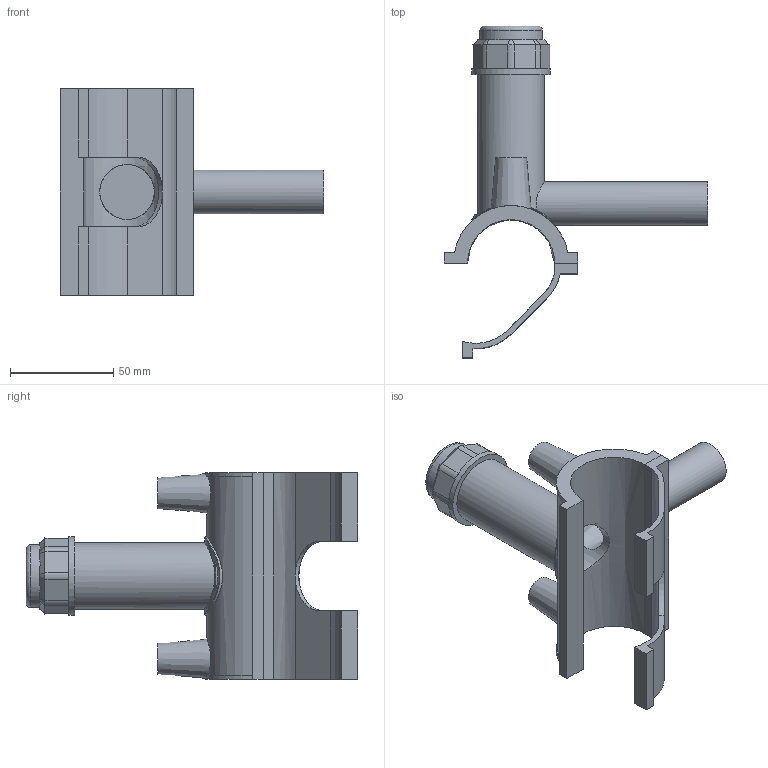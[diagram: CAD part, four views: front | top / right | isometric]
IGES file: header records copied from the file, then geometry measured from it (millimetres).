
Global section: file name: 5963BB03013005.ipt; native system: Autodesk Inventor 2019; preprocessor: unknown; author: KIM; date: 20210830.101332; units: millimetre
Bounding box: 127.25 x 160.41 x 100.08 mm (x, y, z)
Volume: 127349.2 mm3; surface area: 62130.7 mm2
Topology: 2 solids, 2 shells, 111 faces, 286 edges, 187 vertices
Faces by surface type: plane 66, cylinder 23, cone 11, revolution 10, bspline 1
Full cylindrical faces by diameter (mm): 4 x2, 21.2 x1, 30.312 x1, 32.206 x1, 37.89 x1
